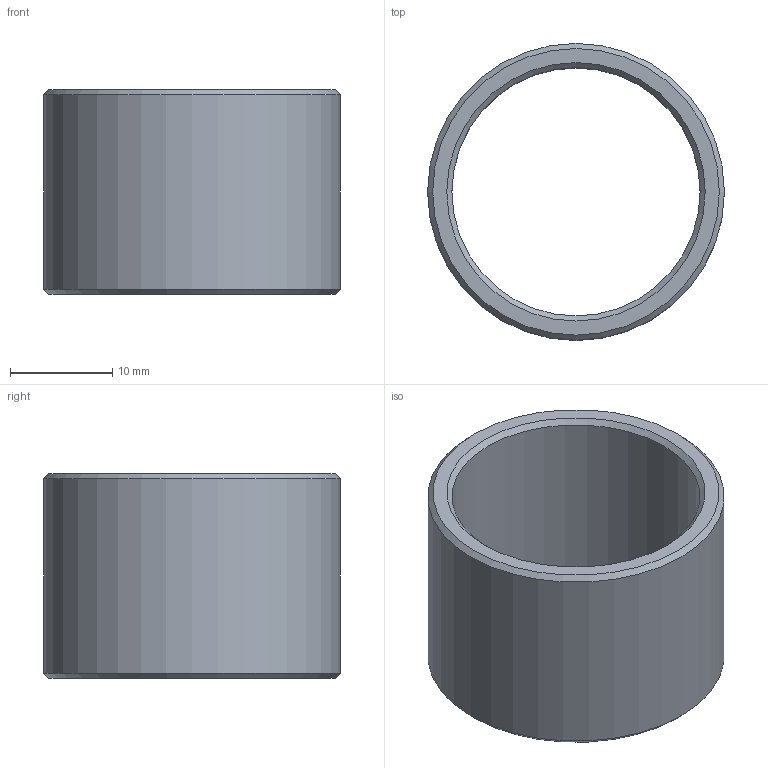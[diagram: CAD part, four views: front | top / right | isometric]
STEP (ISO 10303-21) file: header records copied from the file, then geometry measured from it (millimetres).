
FILE_DESCRIPTION(/* description */ (''),/* implementation_level */ '2;1');
FILE_NAME(/* name */ 'Y:\IvDoronin\- Фотоприемники -\- Модели -\4. Аксесуары для фотоприемников\TNut M25x1\Тубус 20 мм.stp',/* time_stamp */ '2019-08-27T17:11:28+03:00',/* author */ ('svlad'),/* organization */ (''),/* preprocessor_version */ 'ST-DEVELOPER v17',/* originating_system */ 'Autodesk Inventor 2019',/* authorisation */ '');
FILE_SCHEMA (('AUTOMOTIVE_DESIGN { 1 0 10303 214 3 1 1 }'));
Length unit declared in the file: millimetre
Products named in the file (1): Тубус 10 мм
Bounding box: 29 x 29 x 20 mm (x, y, z)
Volume: 3931.3 mm3; surface area: 3645.1 mm2
Topology: 1 solids, 1 shells, 8 faces, 14 edges, 8 vertices
Faces by surface type: cone 4, cylinder 2, plane 2
Full cylindrical faces by diameter (mm): 24.25 x1, 29 x1
Entity records: 231 total; most frequent: DIRECTION 40, CARTESIAN_POINT 31, ORIENTED_EDGE 28, AXIS2_PLACEMENT_3D 17, EDGE_CURVE 14, EDGE_LOOP 10, FACE_OUTER_BOUND 8, CIRCLE 8
